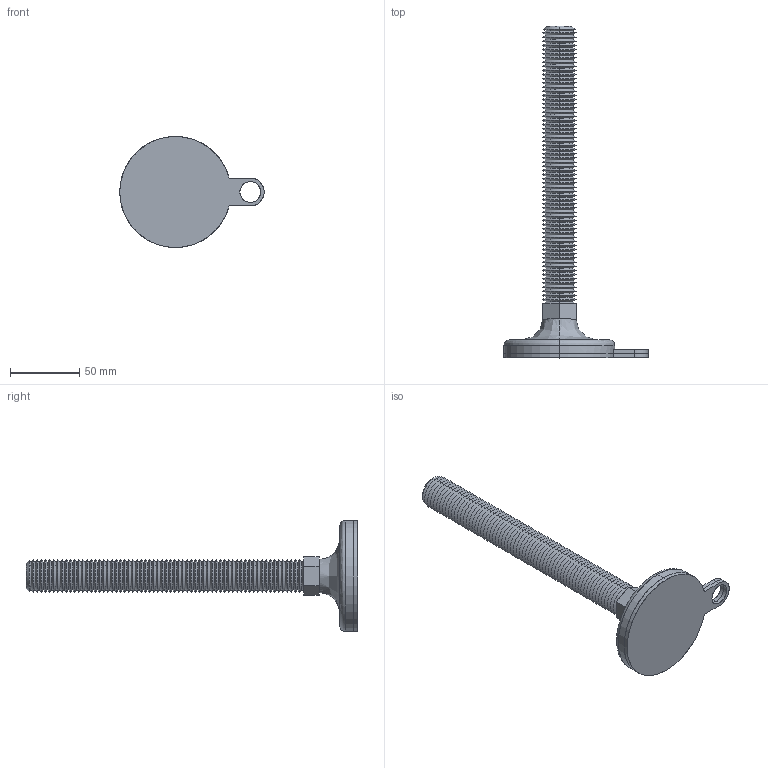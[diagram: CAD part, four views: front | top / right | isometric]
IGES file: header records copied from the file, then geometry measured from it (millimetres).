
Start section: SolidWorks IGES file using analytic representation for surfaces
Global section: file name: C:\Users\liam_\OneDrive\Documents\WORK\Work for WixRoyd\Job Files\J-00026 - Matt Davis CAD - 20191124\04. CAD Drawings\Wixroyd20191124\34704_v2\34704_v2_20191128_IGES\34704.W2403.igs; native system: SolidWorks 2017; preprocessor: SolidWorks 2017; author: liam_; date: 191128.202945; units: millimetre
Bounding box: 104 x 239 x 80 mm (x, y, z)
Surface area: 52884.1 mm2 (no closed solid volume)
Topology: 0 solids, 0 shells, 309 faces, 1868 edges, 1868 vertices
Faces by surface type: revolution 277, bspline 32
